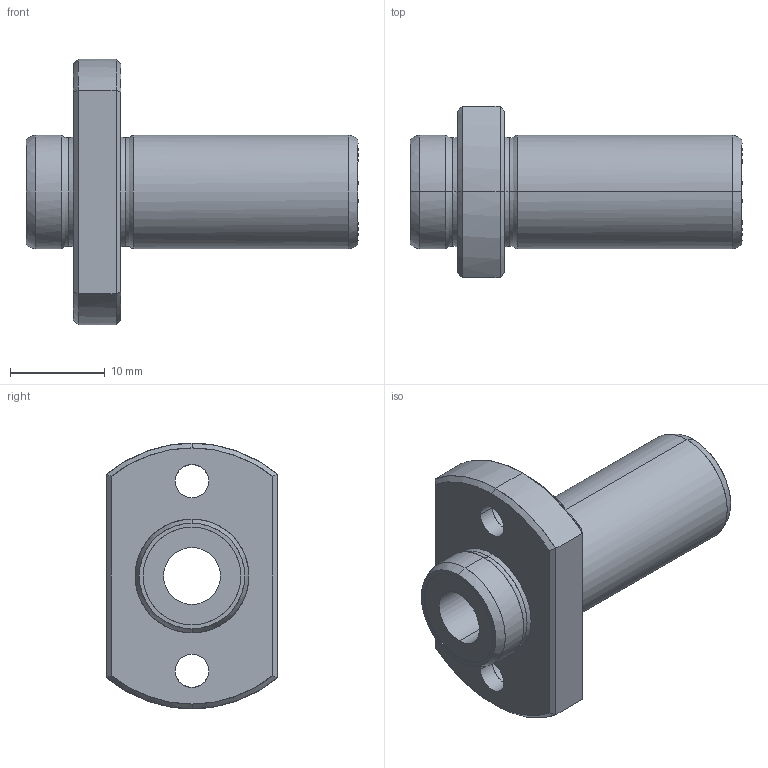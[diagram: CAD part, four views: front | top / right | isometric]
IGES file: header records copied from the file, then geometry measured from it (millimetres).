
Global section: file name: No Iges File Name specified; native system: AutoDesk Inventor R10; preprocessor: AutoDesk Inventor Iges Exporter R10; author: No Author specified; organization: No Organization specified; date: 20101209.173640; units: millimetre
Bounding box: 35 x 18 x 28 mm (x, y, z)
Surface area: 3143.4 mm2 (no closed solid volume)
Topology: 0 solids, 0 shells, 56 faces, 336 edges, 336 vertices
Faces by surface type: bspline 56
